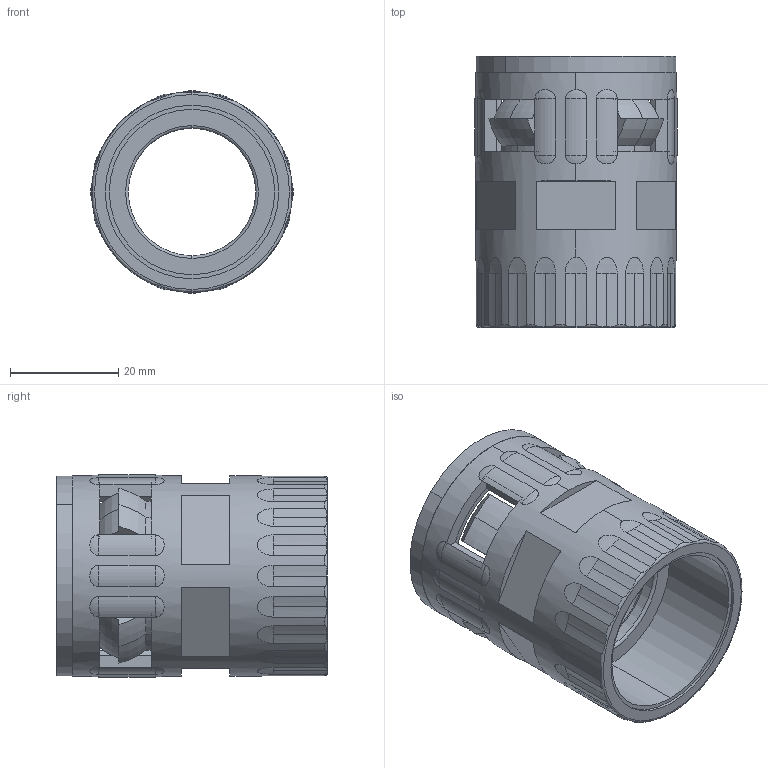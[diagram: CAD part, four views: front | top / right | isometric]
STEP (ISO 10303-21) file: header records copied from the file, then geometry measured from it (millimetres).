
FILE_DESCRIPTION (( 'STEP AP203' ), '1' );
FILE_NAME ('WQG2-M32-AD28.5.STEP', '2020-03-13T01:56:16', ( '' ), ( '' ), 'SwSTEP 2.0', 'SolidWorks 2016', '' );
FILE_SCHEMA (( 'CONFIG_CONTROL_DESIGN' ));
Length unit declared in the file: millimetre
Products named in the file (4): NSK-AD28.5; WQG2-M32-AD28.5; GFD-AD28.5; WQG2-M32-AD28.5-01
Assembly tree (3 placements, depth 2):
  WQG2-M32-AD28.5
    WQG2-M32-AD28.5-01
    GFD-AD28.5
    NSK-AD28.5
Bounding box: 37.4 x 50 x 37.4 mm (x, y, z)
Volume: 17940.9 mm3; surface area: 18798.1 mm2
Topology: 3 solids, 3 shells, 294 faces, 836 edges, 510 vertices
Faces by surface type: cylinder 88, plane 86, sphere 44, cone 40, torus 36
Entity records: 10988 total; most frequent: CARTESIAN_POINT 3244, DIRECTION 1594, ORIENTED_EDGE 1536, EDGE_CURVE 768, AXIS2_PLACEMENT_3D 640, VERTEX_POINT 486, CIRCLE 340, EDGE_LOOP 322
